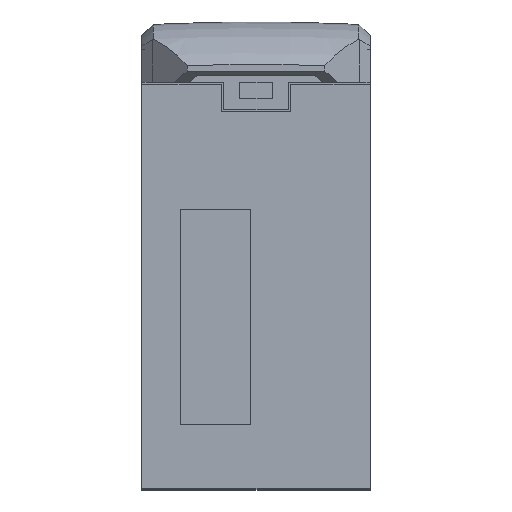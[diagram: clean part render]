
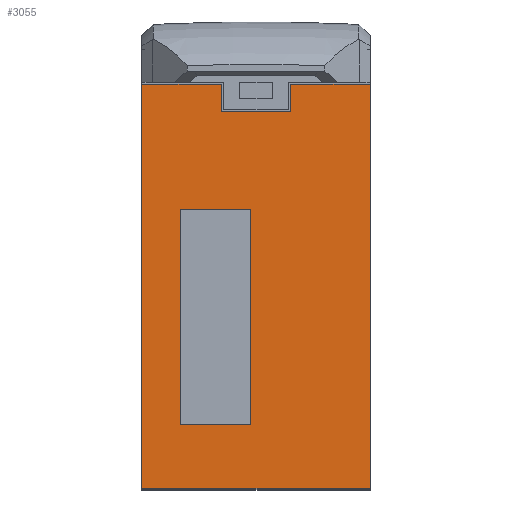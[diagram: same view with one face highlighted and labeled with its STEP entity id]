
A CAD part, top view. The second image highlights one B-rep face of the part: STEP entity #3055.
In plain terms, the highlighted planar face has unit normal (0, 0, 1).
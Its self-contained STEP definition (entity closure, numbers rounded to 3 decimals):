
#3 = CARTESIAN_POINT ( 'NONE',  ( -7., 2.9, 0. ) ) ;
#6 = FACE_BOUND ( 'NONE', #3188, .T. ) ;
#7 = CARTESIAN_POINT ( 'NONE',  ( 3.2, 34.3, 0. ) ) ;
#12 = CARTESIAN_POINT ( 'NONE',  ( -7., 22.8, 0. ) ) ;
#13 = AXIS2_PLACEMENT_3D ( 'NONE', #193, #192, #191 ) ;
#18 = CARTESIAN_POINT ( 'NONE',  ( -0.5, 2.9, 0. ) ) ;
#31 = FACE_OUTER_BOUND ( 'NONE', #3060, .T. ) ;
#52 = DIRECTION ( 'NONE',  ( 1., 0., 0. ) ) ;
#53 = VECTOR ( 'NONE', #52, 1000. ) ;
#54 = CARTESIAN_POINT ( 'NONE',  ( -7., 2.9, 0. ) ) ;
#55 = LINE ( 'NONE', #54, #53 ) ;
#57 = DIRECTION ( 'NONE',  ( 0., -1., 0. ) ) ;
#70 = CARTESIAN_POINT ( 'NONE',  ( -7., 22.8, 0. ) ) ;
#71 = LINE ( 'NONE', #70, #105 ) ;
#95 = DIRECTION ( 'NONE',  ( 0., 1., 0. ) ) ;
#96 = VECTOR ( 'NONE', #95, 1000. ) ;
#97 = CARTESIAN_POINT ( 'NONE',  ( -3.2, 31.8, 0. ) ) ;
#99 = CARTESIAN_POINT ( 'NONE',  ( -3.2, 31.8, 0. ) ) ;
#100 = VECTOR ( 'NONE', #218, 1000. ) ;
#101 = CARTESIAN_POINT ( 'NONE',  ( -10.55, -3., 0. ) ) ;
#102 = LINE ( 'NONE', #101, #100 ) ;
#103 = CARTESIAN_POINT ( 'NONE',  ( -0.5, 22.8, 0. ) ) ;
#104 = DIRECTION ( 'NONE',  ( -1., 0., 0. ) ) ;
#105 = VECTOR ( 'NONE', #104, 1000. ) ;
#106 = CARTESIAN_POINT ( 'NONE',  ( -10.55, -3., 0. ) ) ;
#107 = CARTESIAN_POINT ( 'NONE',  ( 3.2, 31.8, 0. ) ) ;
#108 = LINE ( 'NONE', #103, #96 ) ;
#110 = LINE ( 'NONE', #97, #226 ) ;
#152 = CARTESIAN_POINT ( 'NONE',  ( -0.5, 22.8, 0. ) ) ;
#153 = PLANE ( 'NONE',  #13 ) ;
#154 = VECTOR ( 'NONE', #57, 1000. ) ;
#191 = DIRECTION ( 'NONE',  ( -1., 0., 0. ) ) ;
#192 = DIRECTION ( 'NONE',  ( 0., 0., -1. ) ) ;
#193 = CARTESIAN_POINT ( 'NONE',  ( 10.55, -3., 0. ) ) ;
#194 = CARTESIAN_POINT ( 'NONE',  ( -7., 22.8, 0. ) ) ;
#195 = LINE ( 'NONE', #194, #154 ) ;
#218 = DIRECTION ( 'NONE',  ( 0., -1., 0. ) ) ;
#225 = DIRECTION ( 'NONE',  ( 1., 0., 0. ) ) ;
#226 = VECTOR ( 'NONE', #225, 1000. ) ;
#313 = DIRECTION ( 'NONE',  ( 0., -1., 0. ) ) ;
#314 = VECTOR ( 'NONE', #313, 1000. ) ;
#315 = CARTESIAN_POINT ( 'NONE',  ( -3.2, 34.3, 0. ) ) ;
#316 = LINE ( 'NONE', #315, #314 ) ;
#325 = DIRECTION ( 'NONE',  ( -1., 0., 0. ) ) ;
#326 = VECTOR ( 'NONE', #325, 1000. ) ;
#327 = CARTESIAN_POINT ( 'NONE',  ( 10.55, -3., 0. ) ) ;
#329 = CARTESIAN_POINT ( 'NONE',  ( 10.55, 34.3, 0. ) ) ;
#330 = LINE ( 'NONE', #327, #326 ) ;
#332 = CARTESIAN_POINT ( 'NONE',  ( 10.55, -3., 0. ) ) ;
#350 = DIRECTION ( 'NONE',  ( 1., 0., 0. ) ) ;
#351 = VECTOR ( 'NONE', #350, 1000. ) ;
#354 = CARTESIAN_POINT ( 'NONE',  ( 10.55, -3., 0. ) ) ;
#355 = LINE ( 'NONE', #354, #365 ) ;
#361 = CARTESIAN_POINT ( 'NONE',  ( -10.55, 34.3, 0. ) ) ;
#362 = LINE ( 'NONE', #361, #351 ) ;
#364 = DIRECTION ( 'NONE',  ( 0., -1., 0. ) ) ;
#365 = VECTOR ( 'NONE', #364, 1000. ) ;
#428 = DIRECTION ( 'NONE',  ( 0., 1., 0. ) ) ;
#429 = VECTOR ( 'NONE', #428, 1000. ) ;
#430 = CARTESIAN_POINT ( 'NONE',  ( 3.2, 34.3, 0. ) ) ;
#434 = LINE ( 'NONE', #430, #429 ) ;
#2583 = VERTEX_POINT ( 'NONE', #5923 ) ;
#2603 = EDGE_CURVE ( 'NONE', #2606, #2583, #5897, .T. ) ;
#2606 = VERTEX_POINT ( 'NONE', #5900 ) ;
#3046 = ORIENTED_EDGE ( 'NONE', *, *, #3114, .F. ) ;
#3049 = VERTEX_POINT ( 'NONE', #12 ) ;
#3052 = VERTEX_POINT ( 'NONE', #152 ) ;
#3053 = VERTEX_POINT ( 'NONE', #3 ) ;
#3054 = VERTEX_POINT ( 'NONE', #18 ) ;
#3055 = ADVANCED_FACE ( 'NONE', ( #6, #31 ), #153, .F. ) ;
#3056 = VERTEX_POINT ( 'NONE', #7 ) ;
#3057 = ORIENTED_EDGE ( 'NONE', *, *, #3059, .F. ) ;
#3058 = EDGE_CURVE ( 'NONE', #3049, #3053, #195, .T. ) ;
#3059 = EDGE_CURVE ( 'NONE', #3053, #3054, #55, .T. ) ;
#3060 = EDGE_LOOP ( 'NONE', ( #3118, #3180, #3183, #3185, #3148, #3151, #3116, #3200 ) ) ;
#3110 = ORIENTED_EDGE ( 'NONE', *, *, #3058, .F. ) ;
#3111 = EDGE_CURVE ( 'NONE', #3052, #3049, #71, .T. ) ;
#3112 = VERTEX_POINT ( 'NONE', #107 ) ;
#3113 = ORIENTED_EDGE ( 'NONE', *, *, #3111, .F. ) ;
#3114 = EDGE_CURVE ( 'NONE', #3054, #3052, #108, .T. ) ;
#3115 = EDGE_CURVE ( 'NONE', #3117, #3112, #110, .T. ) ;
#3116 = ORIENTED_EDGE ( 'NONE', *, *, #3152, .F. ) ;
#3117 = VERTEX_POINT ( 'NONE', #99 ) ;
#3118 = ORIENTED_EDGE ( 'NONE', *, *, #3115, .F. ) ;
#3120 = EDGE_CURVE ( 'NONE', #2606, #3121, #102, .T. ) ;
#3121 = VERTEX_POINT ( 'NONE', #106 ) ;
#3148 = ORIENTED_EDGE ( 'NONE', *, *, #3182, .F. ) ;
#3149 = EDGE_CURVE ( 'NONE', #3184, #3181, #355, .T. ) ;
#3151 = ORIENTED_EDGE ( 'NONE', *, *, #3149, .F. ) ;
#3152 = EDGE_CURVE ( 'NONE', #3056, #3184, #362, .T. ) ;
#3180 = ORIENTED_EDGE ( 'NONE', *, *, #3191, .F. ) ;
#3181 = VERTEX_POINT ( 'NONE', #332 ) ;
#3182 = EDGE_CURVE ( 'NONE', #3181, #3121, #330, .T. ) ;
#3183 = ORIENTED_EDGE ( 'NONE', *, *, #2603, .F. ) ;
#3184 = VERTEX_POINT ( 'NONE', #329 ) ;
#3185 = ORIENTED_EDGE ( 'NONE', *, *, #3120, .T. ) ;
#3188 = EDGE_LOOP ( 'NONE', ( #3057, #3110, #3113, #3046 ) ) ;
#3191 = EDGE_CURVE ( 'NONE', #2583, #3117, #316, .T. ) ;
#3199 = EDGE_CURVE ( 'NONE', #3112, #3056, #434, .T. ) ;
#3200 = ORIENTED_EDGE ( 'NONE', *, *, #3199, .F. ) ;
#5771 = DIRECTION ( 'NONE',  ( 1., 0., 0. ) ) ;
#5772 = VECTOR ( 'NONE', #5771, 1000. ) ;
#5774 = CARTESIAN_POINT ( 'NONE',  ( -10.55, 34.3, 0. ) ) ;
#5897 = LINE ( 'NONE', #5774, #5772 ) ;
#5900 = CARTESIAN_POINT ( 'NONE',  ( -10.55, 34.3, 0. ) ) ;
#5923 = CARTESIAN_POINT ( 'NONE',  ( -3.2, 34.3, 0. ) ) ;
